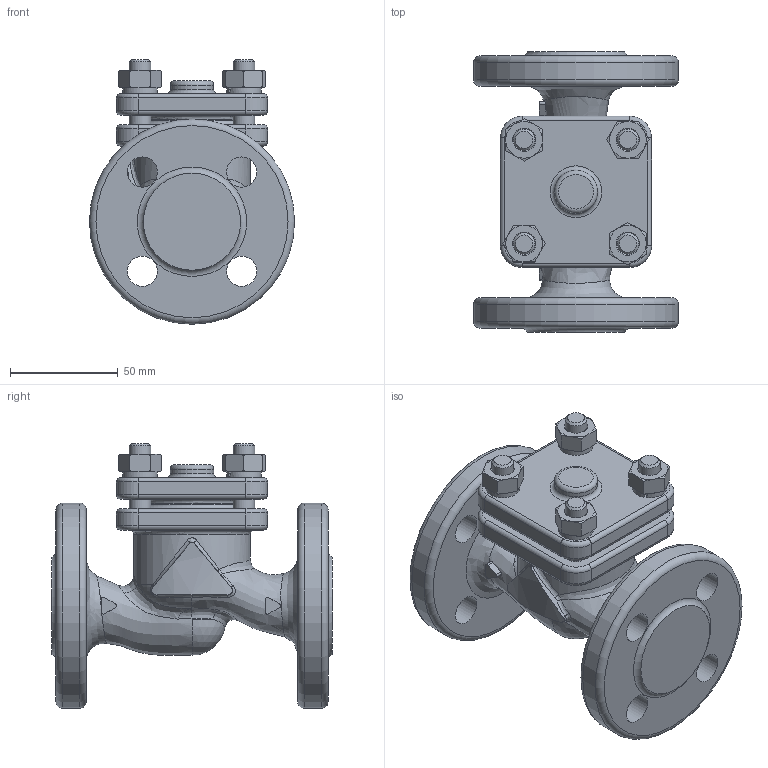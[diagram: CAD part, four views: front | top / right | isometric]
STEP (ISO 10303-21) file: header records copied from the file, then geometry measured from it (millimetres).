
FILE_DESCRIPTION(/* description */ (''),/* implementation_level */ '2;1');
FILE_NAME(/* name */ 'ZV226_DN15.stp',/* time_stamp */ '2012-11-09T09:06:14+01:00',/* author */ (''),/* organization */ ('LDM'),/* preprocessor_version */ 'ST-DEVELOPER v11',/* originating_system */ 'SIEMENS PLM Software NX 7.0',/* authorisation */ '');
FILE_SCHEMA (('CONFIG_CONTROL_DESIGN'));
Length unit declared in the file: millimetre
Products named in the file (1): adam1FBC7inf
Bounding box: 95 x 130 x 122.5 mm (x, y, z)
Volume: 447366.5 mm3; surface area: 74364.9 mm2
Topology: 1 solids, 1 shells, 284 faces, 717 edges, 438 vertices
Faces by surface type: plane 84, cylinder 67, cone 64, torus 42, bspline 26, sphere 1
Full cylindrical faces by diameter (mm): 8.917 x4, 10 x8, 12 x4, 14 x8, 20 x1, 48 x1, 54 x1, 95 x2
Entity records: 11684 total; most frequent: CARTESIAN_POINT 5565, DIRECTION 1222, ORIENTED_EDGE 1204, EDGE_CURVE 602, AXIS2_PLACEMENT_3D 548, EDGE_LOOP 395, VERTEX_POINT 391, ADVANCED_FACE 284
